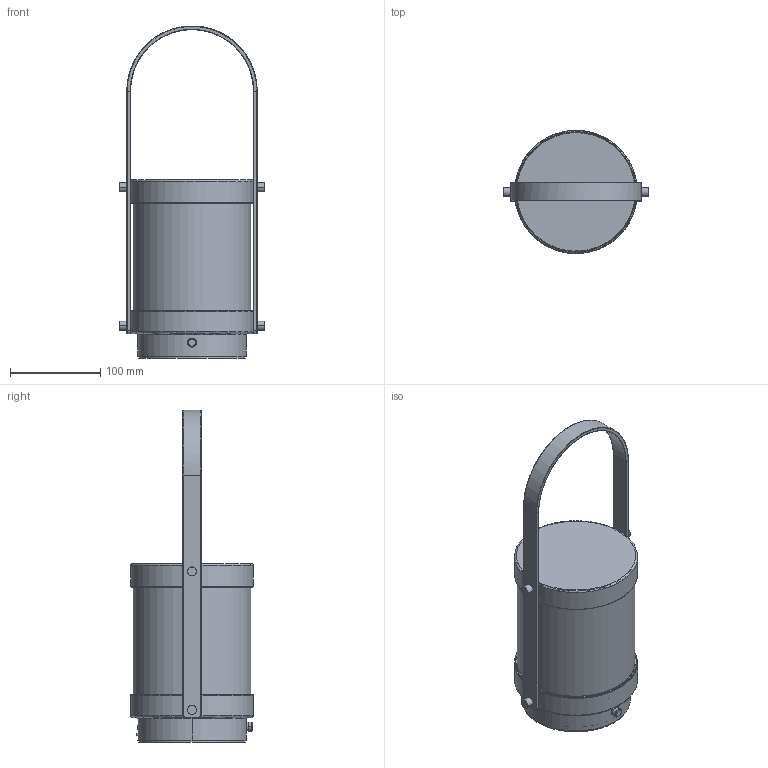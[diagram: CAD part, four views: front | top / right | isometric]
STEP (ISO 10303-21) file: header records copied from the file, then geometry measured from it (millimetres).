
FILE_DESCRIPTION(/* description */ (''),/* implementation_level */ '2;1');
FILE_NAME(/* name */ 'SUVI-L~1',/* time_stamp */ '2022-07-06T15:41:53+08:00',/* author */ (''),/* organization */ (''),/* preprocessor_version */ 'ST-DEVELOPER v15',/* originating_system */ '',/* authorisation */ '');
FILE_SCHEMA (('AUTOMOTIVE_DESIGN'));
Length unit declared in the file: millimetre
Products named in the file (1): Document
Bounding box: 160 x 135.96 x 367 mm (x, y, z)
Volume: 501864.8 mm3; surface area: 499802.4 mm2
Topology: 44 solids, 54 shells, 974 faces, 2030 edges, 1156 vertices
Faces by surface type: bspline 690, plane 284
Entity records: 33644 total; most frequent: CARTESIAN_POINT 21013, ORIENTED_EDGE 4036, EDGE_CURVE 2030, VERTEX_POINT 1156, EDGE_LOOP 1036, ADVANCED_FACE 974, FACE_OUTER_BOUND 974, B_SPLINE_CURVE_WITH_KNOTS 945
